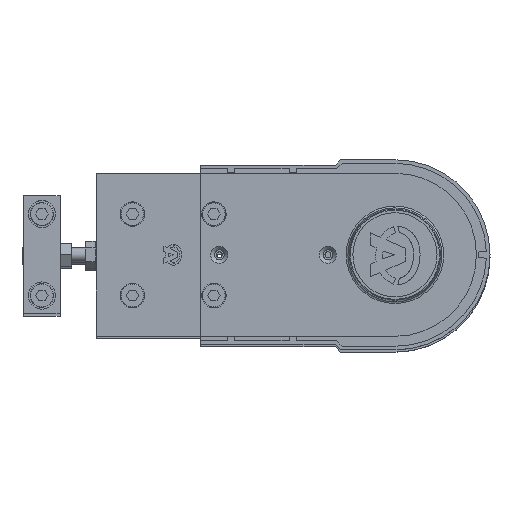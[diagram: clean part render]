
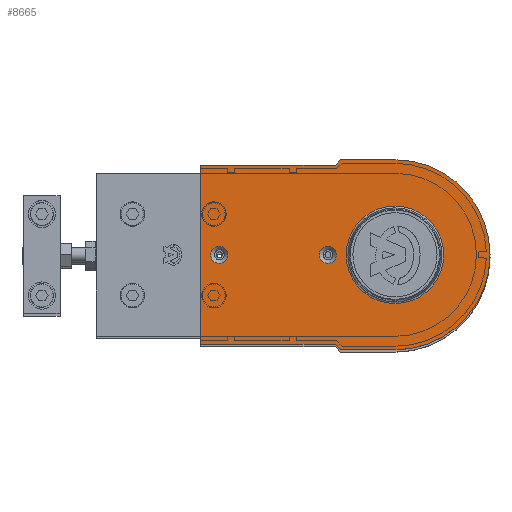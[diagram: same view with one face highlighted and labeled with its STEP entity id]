
A CAD part, top view. The second image highlights one B-rep face of the part: STEP entity #8665.
In plain terms, the highlighted planar face has unit normal (0, 0, 1).
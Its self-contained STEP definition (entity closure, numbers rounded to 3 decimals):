
#53 = CIRCLE ( 'NONE', #13495, 26.933 ) ;
#108 = CARTESIAN_POINT ( 'NONE',  ( 107.5, -49.5, 0. ) ) ;
#759 = EDGE_CURVE ( 'NONE', #4804, #3872, #10514, .T. ) ;
#858 = ORIENTED_EDGE ( 'NONE', *, *, #2985, .T. ) ;
#917 = AXIS2_PLACEMENT_3D ( 'NONE', #5009, #1277, #6485 ) ;
#1061 = EDGE_CURVE ( 'NONE', #3493, #3493, #53, .T. ) ;
#1249 = DIRECTION ( 'NONE',  ( -1., 0., 0. ) ) ;
#1277 = DIRECTION ( 'NONE',  ( 0., 0., 1. ) ) ;
#1491 = EDGE_CURVE ( 'NONE', #15758, #16086, #15504, .T. ) ;
#1752 = VECTOR ( 'NONE', #3259, 1000. ) ;
#1763 = CIRCLE ( 'NONE', #13977, 4.7 ) ;
#2142 = ORIENTED_EDGE ( 'NONE', *, *, #4489, .T. ) ;
#2502 = PLANE ( 'NONE',  #917 ) ;
#2519 = CARTESIAN_POINT ( 'NONE',  ( 30., -52.5, 0. ) ) ;
#2630 = EDGE_CURVE ( 'NONE', #13806, #5658, #10228, .T. ) ;
#2674 = DIRECTION ( 'NONE',  ( -0.707, 0.707, 0. ) ) ;
#2720 = DIRECTION ( 'NONE',  ( 1., 0., 0. ) ) ;
#2960 = VERTEX_POINT ( 'NONE', #108 ) ;
#2985 = EDGE_CURVE ( 'NONE', #5658, #4804, #14279, .T. ) ;
#3094 = CARTESIAN_POINT ( 'NONE',  ( 101.7, 0., 0. ) ) ;
#3164 = ORIENTED_EDGE ( 'NONE', *, *, #1491, .T. ) ;
#3251 = DIRECTION ( 'NONE',  ( 0., 0., 1. ) ) ;
#3259 = DIRECTION ( 'NONE',  ( 1., 0., 0. ) ) ;
#3493 = VERTEX_POINT ( 'NONE', #4258 ) ;
#3555 = EDGE_CURVE ( 'NONE', #5086, #5086, #1763, .T. ) ;
#3637 = ORIENTED_EDGE ( 'NONE', *, *, #3555, .F. ) ;
#3708 = DIRECTION ( 'NONE',  ( 0.707, 0.707, 0. ) ) ;
#3865 = AXIS2_PLACEMENT_3D ( 'NONE', #5883, #3251, #3908 ) ;
#3872 = VERTEX_POINT ( 'NONE', #16400 ) ;
#3896 = ORIENTED_EDGE ( 'NONE', *, *, #5644, .F. ) ;
#3908 = DIRECTION ( 'NONE',  ( 1., 0., 0. ) ) ;
#4108 = CIRCLE ( 'NONE', #12075, 52.5 ) ;
#4258 = CARTESIAN_POINT ( 'NONE',  ( 26.933, 0., 0. ) ) ;
#4482 = CARTESIAN_POINT ( 'NONE',  ( 41.7, 0., 0. ) ) ;
#4489 = EDGE_CURVE ( 'NONE', #2960, #13806, #13209, .T. ) ;
#4590 = VECTOR ( 'NONE', #2674, 1000. ) ;
#4646 = CARTESIAN_POINT ( 'NONE',  ( 107.5, -49.5, 0. ) ) ;
#4675 = EDGE_CURVE ( 'NONE', #3872, #15758, #4108, .T. ) ;
#4804 = VERTEX_POINT ( 'NONE', #6835 ) ;
#4973 = EDGE_LOOP ( 'NONE', ( #2142, #14726, #858, #9879, #8191, #3164, #9124, #13744 ) ) ;
#5009 = CARTESIAN_POINT ( 'NONE',  ( 0., 0., 0. ) ) ;
#5086 = VERTEX_POINT ( 'NONE', #3094 ) ;
#5096 = DIRECTION ( 'NONE',  ( 0., 0., 1. ) ) ;
#5504 = CARTESIAN_POINT ( 'NONE',  ( 107.5, 49.5, 0. ) ) ;
#5644 = EDGE_CURVE ( 'NONE', #13394, #13394, #10887, .T. ) ;
#5658 = VERTEX_POINT ( 'NONE', #14240 ) ;
#5828 = CARTESIAN_POINT ( 'NONE',  ( 0., 0., 0. ) ) ;
#5840 = VECTOR ( 'NONE', #2720, 1000. ) ;
#5866 = VECTOR ( 'NONE', #3708, 1000. ) ;
#5883 = CARTESIAN_POINT ( 'NONE',  ( 37., 0., 0. ) ) ;
#6094 = DIRECTION ( 'NONE',  ( 0., 1., 0. ) ) ;
#6125 = CARTESIAN_POINT ( 'NONE',  ( 33., -49.5, 0. ) ) ;
#6311 = CARTESIAN_POINT ( 'NONE',  ( 33., 49.5, 0. ) ) ;
#6414 = DIRECTION ( 'NONE',  ( 1., 0., 0. ) ) ;
#6485 = DIRECTION ( 'NONE',  ( 1., 0., 0. ) ) ;
#6835 = CARTESIAN_POINT ( 'NONE',  ( 30., 52.5, 0. ) ) ;
#7169 = LINE ( 'NONE', #4646, #1752 ) ;
#7544 = VECTOR ( 'NONE', #6094, 1000. ) ;
#7812 = CARTESIAN_POINT ( 'NONE',  ( 30., -52.5, 0. ) ) ;
#8191 = ORIENTED_EDGE ( 'NONE', *, *, #4675, .T. ) ;
#8466 = DIRECTION ( 'NONE',  ( 0., 0., -1. ) ) ;
#8665 = ADVANCED_FACE ( 'NONE', ( #13973, #14988, #11364, #14185 ), #2502, .T. ) ;
#9063 = CARTESIAN_POINT ( 'NONE',  ( 97., 0., 0. ) ) ;
#9086 = VECTOR ( 'NONE', #9707, 1000. ) ;
#9124 = ORIENTED_EDGE ( 'NONE', *, *, #11048, .T. ) ;
#9707 = DIRECTION ( 'NONE',  ( -1., 0., 0. ) ) ;
#9879 = ORIENTED_EDGE ( 'NONE', *, *, #759, .T. ) ;
#10228 = LINE ( 'NONE', #16578, #13258 ) ;
#10514 = LINE ( 'NONE', #11448, #9086 ) ;
#10887 = CIRCLE ( 'NONE', #3865, 4.7 ) ;
#11048 = EDGE_CURVE ( 'NONE', #16086, #14898, #16138, .T. ) ;
#11248 = CARTESIAN_POINT ( 'NONE',  ( 107.5, -49.5, 0. ) ) ;
#11364 = FACE_BOUND ( 'NONE', #16362, .T. ) ;
#11448 = CARTESIAN_POINT ( 'NONE',  ( 30., 52.5, 0. ) ) ;
#12075 = AXIS2_PLACEMENT_3D ( 'NONE', #16348, #16398, #15138 ) ;
#12121 = CARTESIAN_POINT ( 'NONE',  ( 0., -52.5, 0. ) ) ;
#12725 = ORIENTED_EDGE ( 'NONE', *, *, #1061, .T. ) ;
#13209 = LINE ( 'NONE', #11248, #7544 ) ;
#13258 = VECTOR ( 'NONE', #1249, 1000. ) ;
#13394 = VERTEX_POINT ( 'NONE', #4482 ) ;
#13495 = AXIS2_PLACEMENT_3D ( 'NONE', #5828, #8466, #14901 ) ;
#13744 = ORIENTED_EDGE ( 'NONE', *, *, #14762, .T. ) ;
#13806 = VERTEX_POINT ( 'NONE', #5504 ) ;
#13872 = EDGE_LOOP ( 'NONE', ( #3896 ) ) ;
#13973 = FACE_BOUND ( 'NONE', #15840, .T. ) ;
#13977 = AXIS2_PLACEMENT_3D ( 'NONE', #9063, #5096, #6414 ) ;
#14057 = CARTESIAN_POINT ( 'NONE',  ( 33., -49.5, 0. ) ) ;
#14185 = FACE_OUTER_BOUND ( 'NONE', #4973, .T. ) ;
#14240 = CARTESIAN_POINT ( 'NONE',  ( 33., 49.5, 0. ) ) ;
#14279 = LINE ( 'NONE', #6311, #4590 ) ;
#14726 = ORIENTED_EDGE ( 'NONE', *, *, #2630, .T. ) ;
#14762 = EDGE_CURVE ( 'NONE', #14898, #2960, #7169, .T. ) ;
#14898 = VERTEX_POINT ( 'NONE', #14057 ) ;
#14901 = DIRECTION ( 'NONE',  ( 1., 0., 0. ) ) ;
#14988 = FACE_BOUND ( 'NONE', #13872, .T. ) ;
#15138 = DIRECTION ( 'NONE',  ( 1., 0., 0. ) ) ;
#15504 = LINE ( 'NONE', #7812, #5840 ) ;
#15758 = VERTEX_POINT ( 'NONE', #12121 ) ;
#15840 = EDGE_LOOP ( 'NONE', ( #12725 ) ) ;
#16086 = VERTEX_POINT ( 'NONE', #2519 ) ;
#16138 = LINE ( 'NONE', #6125, #5866 ) ;
#16348 = CARTESIAN_POINT ( 'NONE',  ( 0., 0., 0. ) ) ;
#16362 = EDGE_LOOP ( 'NONE', ( #3637 ) ) ;
#16398 = DIRECTION ( 'NONE',  ( 0., 0., 1. ) ) ;
#16400 = CARTESIAN_POINT ( 'NONE',  ( 0., 52.5, 0. ) ) ;
#16578 = CARTESIAN_POINT ( 'NONE',  ( 107.5, 49.5, 0. ) ) ;
